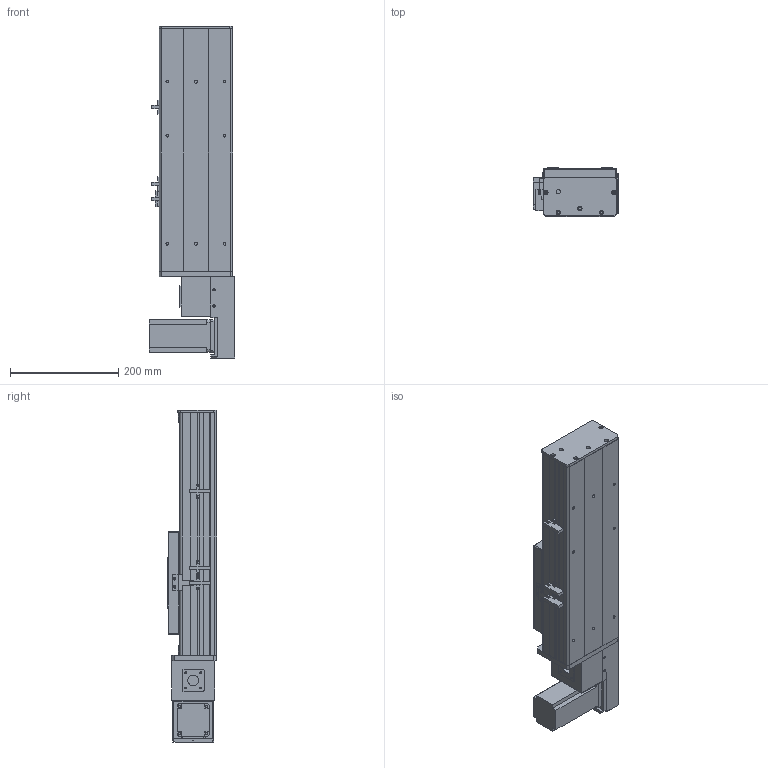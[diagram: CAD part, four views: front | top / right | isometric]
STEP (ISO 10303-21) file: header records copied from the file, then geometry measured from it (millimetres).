
FILE_DESCRIPTION (( 'STEP AP203' ), '1' );
FILE_NAME ('Y135CB-D90-S150-BL-P400W.STEP', '2020-02-17T07:53:47', ( '微软用户' ), ( '微软中国' ), 'SwSTEP 2.0', 'SolidWorks 2017', '' );
FILE_SCHEMA (( 'CONFIG_CONTROL_DESIGN' ));
Length unit declared in the file: millimetre
Products named in the file (18): 0B-埴倛裔啣; 5C--俋欶; 0B-源倛裔啣; C-雄赽釱--; 0B-萇儂楊擘啣; Y135CB-耜裔; Y135CB-D90-S150-BL-P400W; san松下电机400不带刹车----; 135CB---遴掛极.-; 5CB --掛极耜裔啣-; 35CB---喘謫眊楊擘啣; C-詩湍揤踡え-陔; Y10B--々湍喘謫眊--666; 135CB--詩湍-CE; Y10B-耜蚾蟀諉啣----; Y100-135俋离換覜ん--; Y俋欶BR----; Y135C-陔俋离換覜結え-
Assembly tree (21 placements, depth 2):
  Y135CB-D90-S150-BL-P400W
    Y135CB-耜裔
    135CB---遴掛极.-
    35CB---喘謫眊楊擘啣
    Y10B--々湍喘謫眊--666
    Y10B-耜蚾蟀諉啣----
    Y俋欶BR----
    0B-埴倛裔啣
    0B-源倛裔啣
    0B-萇儂楊擘啣
    san松下电机400不带刹车----
    5CB --掛极耜裔啣-  x2
    C-詩湍揤踡え-陔  x2
    135CB--詩湍-CE
    Y100-135俋离換覜ん--  x3
    Y135C-陔俋离換覜結え-
    5C--俋欶
    C-雄赽釱--
Bounding box: 157.5 x 91 x 614.5 mm (x, y, z)
Volume: 2179674.5 mm3; surface area: 831521.6 mm2
Topology: 21 solids, 21 shells, 941 faces, 2479 edges, 1642 vertices
Faces by surface type: cylinder 463, plane 462, cone 16
Entity records: 28853 total; most frequent: DIRECTION 4799, CARTESIAN_POINT 4688, ORIENTED_EDGE 4434, EDGE_CURVE 2217, AXIS2_PLACEMENT_3D 1745, VERTEX_POINT 1470, VECTOR 1309, LINE 1309
